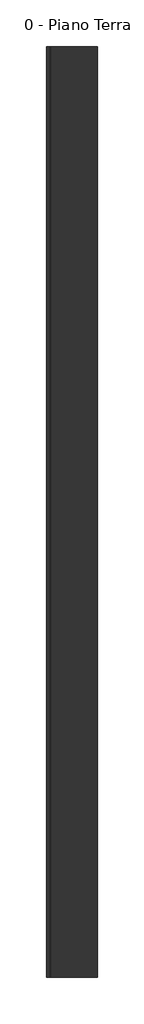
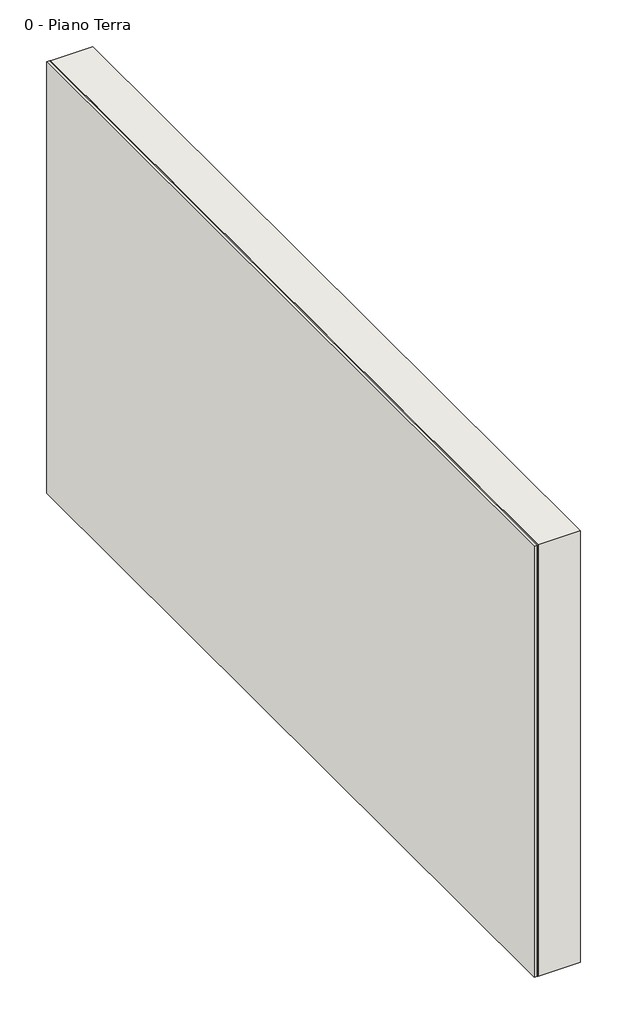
# One storey: 3 walls, 2 proxies.
"""IFC4 building model written with IfcOpenShell, lengths in millimetres."""

from ifc_helpers import new_model, si_unit, origin, origin_with_axes, place, context, project, spatial, polyline, outline, extrude, transform, mapped, element, save
from components import ita_triple_zero_ita_triple_zero_a9e28b2d

model = new_model("IFC4")

# Units and contexts
model_context = context("Model", 3, world=origin())
ifc_project = project(units=[si_unit("LENGTHUNIT", "METRE", prefix="MILLI")], contexts=[model_context])

# Site, building, storey
site = spatial("IfcSite", under=ifc_project)
building = spatial("IfcBuilding", under=site)
storey = spatial("IfcBuildingStorey", under=building, Name="0 - Piano Terra", Elevation=0.0)

# Proxies
placement = place(None, origin())
ita_triple_zero_ita_triple_zero_shape = ita_triple_zero_ita_triple_zero_a9e28b2d(model_context)
element("IfcBuildingElementProxy", 1, Name="ITA-TRIPLE ZERO : ITA-TRIPLE ZERO", ObjectType="ITA-TRIPLE ZERO : ITA-TRIPLE ZERO", at=placement, inside=storey, context=model_context, shape_type="MappedRepresentation", body=[
    mapped(ita_triple_zero_ita_triple_zero_shape, transform((-5638.8968209, 7061.5778451, 80.1133199), x_axis=(0.0, -1.0, 0.0), y_axis=(0.0, 0.0, 1.0), z_axis=(-1.0, 0.0, 0.0))),
])
element("IfcBuildingElementProxy", 2, Name="ITA-TRIPLE ZERO : ITA-TRIPLE ZERO", ObjectType="ITA-TRIPLE ZERO : ITA-TRIPLE ZERO", at=placement, inside=storey, context=model_context, shape_type="MappedRepresentation", body=[
    mapped(ita_triple_zero_ita_triple_zero_shape, transform((-5638.8968209, 6581.5778451, 80.1133199), x_axis=(0.0, -1.0, 0.0), y_axis=(0.0, 0.0, 1.0), z_axis=(-1.0, 0.0, 0.0))),
])

# Walls
element("IfcWall", 3, ObjectType="CALIBRO RINZAFFO VOLTECO", at=placement, inside=storey, context=model_context, shape_type="SweptSolid", body=[
    extrude(outline(polyline([(-5832.8968209, 2128.648913), (-5832.8968209, 7128.648913), (-5827.8968209, 7128.648913), (-5827.8968209, 2128.648913), (-5832.8968209, 2128.648913)])), origin_with_axes(), (0.0, 0.0, 1.0), 2700.0),
])
element("IfcWall", 4, ObjectType="CALIBRO P.E. INTONACO VOLTECO", at=placement, inside=storey, context=model_context, shape_type="SweptSolid", body=[
    extrude(outline(polyline([(-5852.8968209, 2128.648913), (-5852.8968209, 7128.648913), (-5832.8968209, 7128.648913), (-5832.8968209, 2128.648913), (-5852.8968209, 2128.648913)])), origin_with_axes(), (0.0, 0.0, 1.0), 2700.0),
])
element("IfcWall", 5, ObjectType="Muro mattoni", at=placement, inside=storey, context=model_context, shape_type="SweptSolid", body=[
    extrude(outline(polyline([(-5577.8968209, 7128.648913), (-5577.8968209, 2128.648913), (-5827.8968209, 2128.648913), (-5827.8968209, 7128.648913), (-5577.8968209, 7128.648913)])), origin_with_axes(), (0.0, 0.0, 1.0), 2700.0),
])

save(model, "model.ifc")
